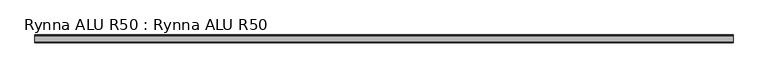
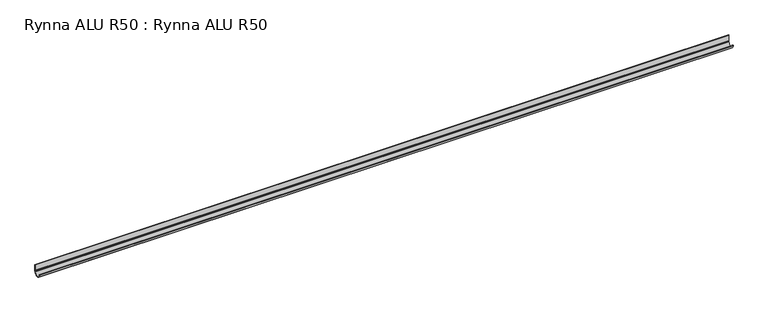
"""IFC4 building model written with IfcOpenShell, lengths in millimetres: proxy geometry, Rynna ALU R50 : Rynna ALU R50."""

from ifc_helpers import new_model, si_unit, point, frame, frame_2d, origin, place, context, project, spatial, polyline, circle_curve, trimmed, segment, composite_curve, outline, extrude, source, transform, mapped, element, save


def rynna_alu_r50_rynna_alu_r50_e622e73a(model_context):
    return source(origin(), model_context, "Body", "SweptSolid", [
        extrude(outline(composite_curve([segment(polyline([(0.6978396, 0.0), (0.6978396, -39.5252625), (-1.8149767, -41.8701356), (-2.328284, -45.5225054), (0.9565767, -44.1281649), (0.1767814, -46.0765907), (-2.6292486, -47.6619658)]), True, "CONTINUOUS"), segment(trimmed(circle_curve(frame_2d((-27.3646611, -44.302303)), 24.9625312), [point((-2.6292486, -47.6619658))], [point((-52.3271923, -44.302303))], False, "CARTESIAN"), True, "CONTINUOUS"), segment(trimmed(circle_curve(frame_2d((-50.3771937, -44.3000011)), 1.95), [point((-52.3271923, -44.302303))], [point((-50.8512717, -46.1914952))], False, "CARTESIAN"), True, "CONTINUOUS"), segment(trimmed(circle_curve(frame_2d((-27.3646611, -44.302303)), 23.5624686), [point((-50.8512717, -46.1914952))], [point((-3.9370468, -46.8196069))], True, "CARTESIAN"), True, "CONTINUOUS"), segment(polyline([(-3.9370468, -46.8196069), (-3.0707013, -41.065916), (-0.7021617, -38.7702547), (-0.7021617, 0.0), (0.6978396, 0.0)]), True, "CONTINUOUS")], self_intersect=False)), frame((-2330.0, 0.0, 0.0), z_axis=(1.0, 0.0, 0.0), x_axis=(0.0, 1.0, 0.0)), (0.0, 0.0, 1.0), 4660.0),
    ])


if __name__ == "__main__":
    model = new_model("IFC4")
    model_context = context("Model", 3, world=origin())
    ifc_project = project(units=[si_unit("LENGTHUNIT", "METRE", prefix="MILLI")], contexts=[model_context])
    site = spatial("IfcSite", under=ifc_project)
    building = spatial("IfcBuilding", under=site)
    placement = place(None, origin())
    rynna_alu_r50_rynna_alu_r50_shape = rynna_alu_r50_rynna_alu_r50_e622e73a(model_context)
    element("IfcBuildingElementProxy", 1, Name="Rynna ALU R50 : Rynna ALU R50", ObjectType="Rynna ALU R50 : Rynna ALU R50", at=placement, inside=building, context=model_context, shape_type="MappedRepresentation", body=[
        mapped(rynna_alu_r50_rynna_alu_r50_shape, transform((0.0, 0.0, 0.0), x_axis=(1.0, 0.0, 0.0), y_axis=(0.0, 1.0, 0.0), z_axis=(0.0, 0.0, 1.0))),
    ])
    save(model, "model.ifc")
